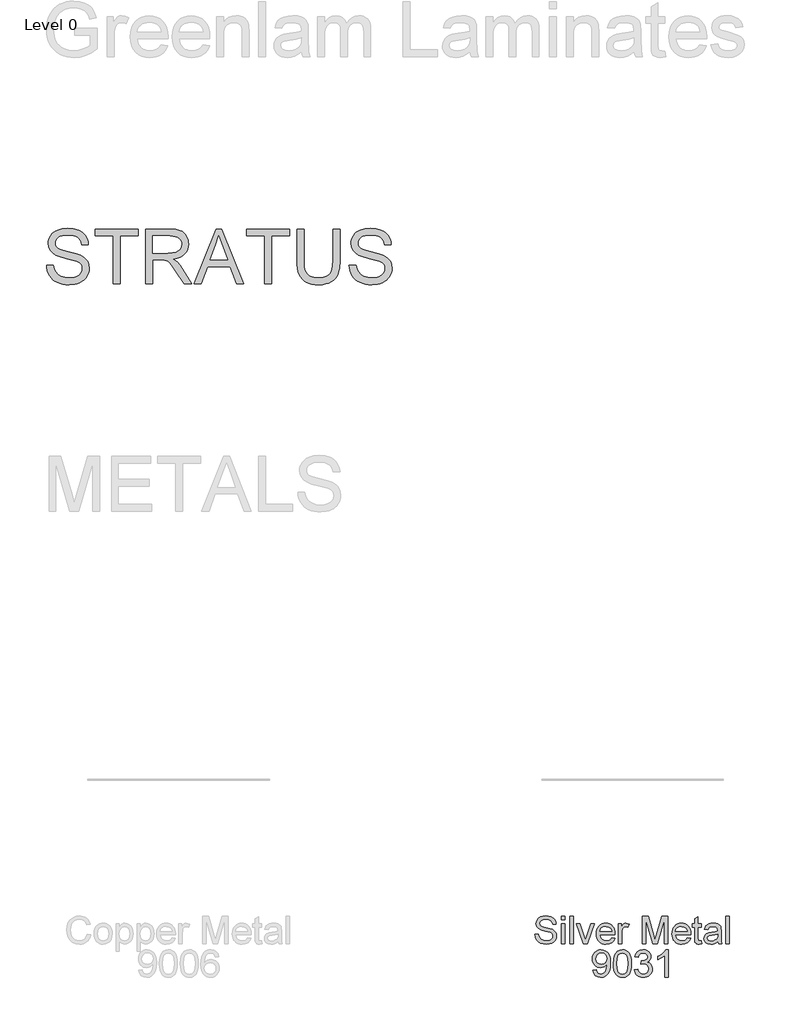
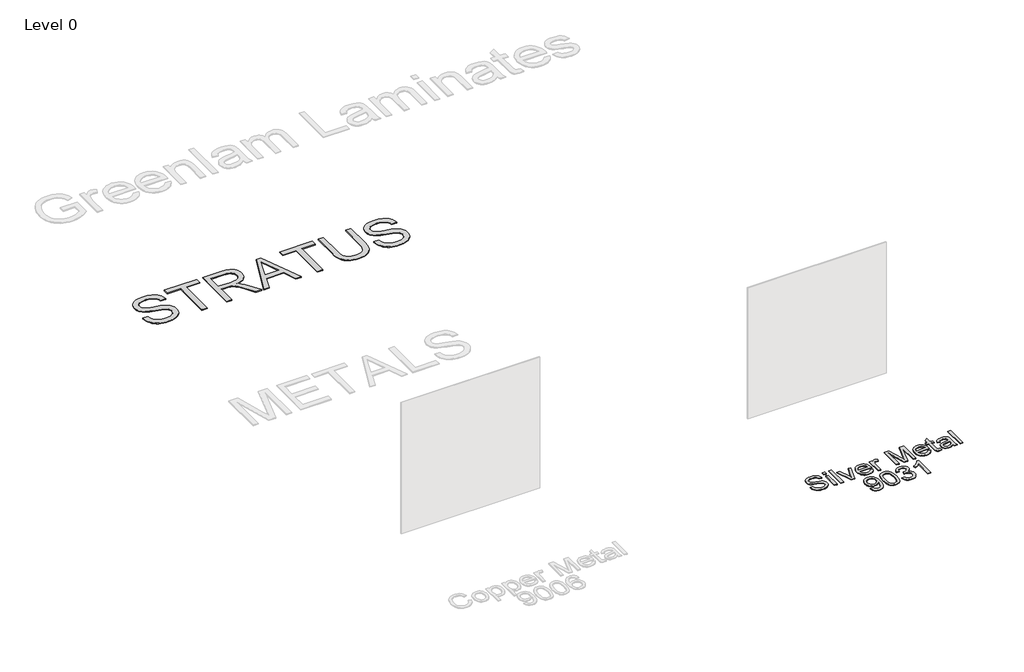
# One storey, part 2 of 3: 2 proxies.
"""IFC4 building model written with IfcOpenShell, lengths in millimetres."""

from ifc_helpers import new_model, si_unit, origin, origin_with_axes, place, context, project, spatial, polyline, outline, extrude, element, save

model = new_model("IFC4")

# Units and contexts
model_context = context("Model", 3, world=origin())
ifc_project = project(units=[si_unit("LENGTHUNIT", "METRE", prefix="MILLI")], contexts=[model_context])

# Site, building, storey
site = spatial("IfcSite", under=ifc_project)
building = spatial("IfcBuilding", under=site)
storey = spatial("IfcBuildingStorey", under=building, Name="Level 0", Elevation=0.0)

# Proxies
placement = place(None, origin())
element("IfcBuildingElementProxy", 1, Name="300mm Arial", ObjectType="300mm Arial", at=placement, inside=storey, context=model_context, shape_type="SweptSolid", body=[
    extrude(outline(polyline([(-5524.284871, -6899.2649241), (-5486.6137547, -6899.2649241), (-5482.2911413, -6920.1698185), (-5474.4736489, -6936.9728286), (-5462.2783607, -6950.308551), (-5444.8223601, -6960.8115819), (-5423.4852044, -6967.6265959), (-5399.6464511, -6969.8982672), (-5378.6587832, -6968.1784189), (-5360.2830776, -6963.0188739), (-5345.3930538, -6954.8518936), (-5334.8624317, -6944.1097394), (-5328.5992407, -6931.7764955), (-5326.5115104, -6918.8362463), (-5328.0750089, -6906.2270909), (-5332.7655043, -6895.3285868), (-5342.293648, -6886.0303694), (-5358.3700912, -6878.222074), (-5413.2212967, -6863.837888), (-5449.227747, -6854.3189414), (-5472.2663569, -6845.2598472), (-5491.0191416, -6832.5863125), (-5504.3088787, -6817.2272392), (-5512.2275386, -6799.5137211), (-5514.867092, -6779.7768521), (-5511.6021392, -6757.7131294), (-5501.8072811, -6737.1393289), (-5485.740035, -6719.7017223), (-5463.6579182, -6707.0465817), (-5437.1520205, -6699.3486509), (-5407.8134314, -6696.782674), (-5376.028427, -6699.4682126), (-5348.2165481, -6707.5248283), (-5325.3710762, -6720.7869742), (-5308.4852927, -6739.0891034), (-5297.7983207, -6761.2907818), (-5293.5492837, -6786.2515752), (-5331.2204, -6786.2515752), (-5338.1365815, -6763.7739853), (-5352.5575557, -6747.5503893), (-5375.0903279, -6737.7279401), (-5406.3419034, -6734.4537903), (-5438.3292429, -6737.6911519), (-5460.2734039, -6747.4032365), (-5472.9653327, -6761.695452), (-5477.1959756, -6778.6732061), (-5474.1977374, -6793.1493626), (-5465.2030226, -6804.7928278), (-5443.9394433, -6815.2038882), (-5403.693153, -6825.8356779), (-5362.1592758, -6835.9340387), (-5337.0329355, -6844.7448125), (-5315.557824, -6858.4116286), (-5300.5758298, -6875.2790181), (-5291.774253, -6895.1630399), (-5288.8403941, -6917.8797531), (-5292.2157114, -6941.102304), (-5302.3416633, -6962.9452975), (-5318.8043826, -6981.7440675), (-5341.190002, -6995.8339479), (-5368.109767, -7004.6355246), (-5398.1749231, -7007.5693835), (-5435.0826843, -7004.4055984), (-5465.46054, -6994.9142429), (-5489.6579782, -6979.0585289), (-5508.0244868, -6956.8016682), (-5519.8151048, -6929.6887651), (-5524.284871, -6899.2649241)])), origin_with_axes(), (0.0, 0.0, 1.0), 10.0),
    extrude(outline(polyline([(-5237.0426092, -6739.1626798), (-5237.0426092, -6701.4915635), (-5199.3714929, -6701.4915635), (-5199.3714929, -6739.1626798), (-5237.0426092, -6739.1626798)])), origin_with_axes(), (0.0, 0.0, 1.0), 10.0),
    extrude(outline(polyline([(-5237.0426092, -7002.860494), (-5237.0426092, -6781.5426857), (-5199.3714929, -6781.5426857), (-5199.3714929, -7002.860494), (-5237.0426092, -7002.860494)])), origin_with_axes(), (0.0, 0.0, 1.0), 10.0),
    extrude(outline(polyline([(-5142.8648184, -7002.860494), (-5142.8648184, -6701.4915635), (-5105.1937021, -6701.4915635), (-5105.1937021, -7002.860494), (-5142.8648184, -7002.860494)])), origin_with_axes(), (0.0, 0.0, 1.0), 10.0),
    extrude(outline(polyline([(-4994.3876452, -7002.860494), (-5072.2314754, -6781.5426857), (-5032.3530671, -6781.5426857), (-4985.1905953, -6914.1273567), (-4970.9903503, -6958.7146546), (-4957.0844109, -6916.6289543), (-4909.6276335, -6781.5426857), (-4869.7492252, -6781.5426857), (-4946.6365622, -7002.860494), (-4994.3876452, -7002.860494)])), origin_with_axes(), (0.0, 0.0, 1.0), 10.0),
    extrude(outline(polyline([(-4681.8351021, -6936.9360404), (-4644.8997498, -6941.64493), (-4658.2078809, -6969.4752029), (-4679.4438691, -6990.2789297), (-4708.1294677, -7003.2467701), (-4743.7864301, -7007.5693835), (-4767.1607323, -7005.7046817), (-4787.9874518, -7000.1105761), (-4806.2665884, -6990.7870668), (-4821.9981422, -6977.7341537), (-4834.6486843, -6961.3151204), (-4843.6847859, -6941.8932503), (-4849.1064468, -6919.4685435), (-4850.9136671, -6894.0409998), (-4849.0880527, -6867.7512327), (-4843.6112095, -6844.5792656), (-4834.4831375, -6824.5250983), (-4821.7038366, -6807.5887309), (-4806.0136695, -6794.133447), (-4788.1529987, -6784.5225298), (-4768.121824, -6778.7559796), (-4745.9201456, -6776.8337961), (-4724.4335379, -6778.751381), (-4705.0024707, -6784.5041357), (-4687.6269442, -6794.0920602), (-4672.3069584, -6807.5151545), (-4659.8012698, -6824.4147337), (-4650.8686351, -6844.4321128), (-4645.5090543, -6867.5672917), (-4643.7225274, -6893.8202706), (-4643.9432566, -6903.9738137), (-4813.2425508, -6903.9738137), (-4806.7218424, -6932.1719686), (-4791.5743012, -6952.902119), (-4769.7129137, -6965.6492302), (-4743.0506661, -6969.8982672), (-4723.0010973, -6967.9300985), (-4706.1153138, -6962.0255925), (-4692.3933153, -6951.8168672), (-4681.8351021, -6936.9360404)]), holes=[polyline([(-4813.2425508, -6866.3026974), (-4681.3936437, -6866.3026974), (-4686.4888093, -6846.4002814), (-4696.4768055, -6832.1632482), (-4718.4393606, -6818.9194964), (-4746.0672984, -6814.5049125), (-4771.4603532, -6818.0273826), (-4792.457218, -6828.5947929), (-4807.0529362, -6845.0667092), (-4813.2425508, -6866.3026974)])]), origin_with_axes(), (0.0, 0.0, 1.0), 10.0),
    extrude(outline(polyline([(-4606.0514111, -7002.860494), (-4606.0514111, -6781.5426857), (-4573.0891843, -6781.5426857), (-4573.0891843, -6814.2841833), (-4560.9122903, -6795.3014723), (-4549.6918894, -6784.1178596), (-4538.4347004, -6778.654812), (-4526.1474417, -6776.8337961), (-4507.38546, -6779.7400639), (-4488.3291726, -6788.4588672), (-4500.9107368, -6822.2304343), (-4514.1544887, -6816.4362929), (-4527.3982405, -6814.5049125), (-4538.6462325, -6816.3627165), (-4548.698608, -6821.9361288), (-4556.8196031, -6830.8020848), (-4562.2734536, -6842.5375205), (-4566.8535845, -6863.5803706), (-4568.3802948, -6886.5362071), (-4568.3802948, -7002.860494), (-4606.0514111, -7002.860494)])), origin_with_axes(), (0.0, 0.0, 1.0), 10.0),
    extrude(outline(polyline([(-4342.3535969, -7002.860494), (-4342.3535969, -6701.4915635), (-4277.5327894, -6701.4915635), (-4215.875767, -6913.9066275), (-4203.4413555, -6958.2731962), (-4189.9768745, -6910.2278076), (-4129.3499217, -6701.4915635), (-4064.5291142, -6701.4915635), (-4064.5291142, -7002.860494), (-4102.2002305, -7002.860494), (-4102.2002305, -6739.1626798), (-4177.9103451, -7002.860494), (-4228.972366, -7002.860494), (-4304.6824806, -6739.1626798), (-4304.6824806, -7002.860494), (-4342.3535969, -7002.860494)])), origin_with_axes(), (0.0, 0.0, 1.0), 10.0),
    extrude(outline(polyline([(-3848.3616538, -6936.9360404), (-3811.4263015, -6941.64493), (-3824.7344327, -6969.4752029), (-3845.9704208, -6990.2789297), (-3874.6560194, -7003.2467701), (-3910.3129818, -7007.5693835), (-3933.6872841, -7005.7046817), (-3954.5140035, -7000.1105761), (-3972.7931401, -6990.7870668), (-3988.524694, -6977.7341537), (-4001.1752361, -6961.3151204), (-4010.2113376, -6941.8932503), (-4015.6329985, -6919.4685435), (-4017.4402188, -6894.0409998), (-4015.6146044, -6867.7512327), (-4010.1377612, -6844.5792656), (-4001.0096892, -6824.5250983), (-3988.2303884, -6807.5887309), (-3972.5402213, -6794.133447), (-3954.6795504, -6784.5225298), (-3934.6483758, -6778.7559796), (-3912.4466974, -6776.8337961), (-3890.9600896, -6778.751381), (-3871.5290225, -6784.5041357), (-3854.153496, -6794.0920602), (-3838.8335101, -6807.5151545), (-3826.3278216, -6824.4147337), (-3817.3951869, -6844.4321128), (-3812.035606, -6867.5672917), (-3810.2490791, -6893.8202706), (-3810.4698083, -6903.9738137), (-3979.7691025, -6903.9738137), (-3973.2483941, -6932.1719686), (-3958.100853, -6952.902119), (-3936.2394654, -6965.6492302), (-3909.5772178, -6969.8982672), (-3889.5276491, -6967.9300985), (-3872.6418655, -6962.0255925), (-3858.9198671, -6951.8168672), (-3848.3616538, -6936.9360404)]), holes=[polyline([(-3979.7691025, -6866.3026974), (-3847.9201954, -6866.3026974), (-3853.015361, -6846.4002814), (-3863.0033572, -6832.1632482), (-3884.9659123, -6818.9194964), (-3912.5938502, -6814.5049125), (-3937.9869049, -6818.0273826), (-3958.9837698, -6828.5947929), (-3973.5794879, -6845.0667092), (-3979.7691025, -6866.3026974)])]), origin_with_axes(), (0.0, 0.0, 1.0), 10.0),
    extrude(outline(polyline([(-3692.5268406, -6971.4433716), (-3687.8179511, -7003.96414), (-3715.9977119, -7007.5693835), (-3734.079112, -7006.005885), (-3747.5619871, -7001.3153896), (-3757.0901308, -6994.0865084), (-3763.3073365, -6984.9078526), (-3766.7286391, -6969.1441091), (-3767.8690733, -6942.1599648), (-3767.8690733, -6819.213802), (-3796.1224105, -6819.213802), (-3796.1224105, -6781.5426857), (-3767.8690733, -6781.5426857), (-3767.8690733, -6727.758338), (-3730.197957, -6705.6118419), (-3730.197957, -6781.5426857), (-3692.5268406, -6781.5426857), (-3692.5268406, -6819.213802), (-3730.197957, -6819.213802), (-3730.197957, -6941.0563188), (-3728.2113942, -6960.4804881), (-3721.7734593, -6967.3598814), (-3708.9343776, -6969.8982672), (-3692.5268406, -6971.4433716)])), origin_with_axes(), (0.0, 0.0, 1.0), 10.0),
    extrude(outline(polyline([(-3513.5890382, -6974.6071568), (-3531.5876648, -6990.0398064), (-3550.1197203, -7000.1381672), (-3569.608269, -7005.7115794), (-3590.4763752, -7007.5693835), (-3621.9578769, -7003.0996173), (-3645.1804279, -6989.6903186), (-3659.5002345, -6969.3280501), (-3664.2735034, -6943.9993748), (-3662.4708816, -6928.3827841), (-3657.0630163, -6914.2009331), (-3648.7212921, -6902.0608273), (-3638.1170936, -6892.5694718), (-3611.7399545, -6880.2086368), (-3579.1456097, -6874.5432541), (-3540.6283648, -6868.5835657), (-3513.8097674, -6861.5938078), (-3513.5890382, -6853.2060983), (-3516.1826063, -6836.3938912), (-3523.9633105, -6825.3942195), (-3541.3641288, -6817.2272392), (-3565.6075523, -6814.5049125), (-3588.048354, -6816.3167313), (-3603.720127, -6821.7521878), (-3614.407099, -6831.8045633), (-3621.8934976, -6847.4671392), (-3659.5646139, -6842.7582497), (-3653.0255114, -6822.156858), (-3643.2674415, -6805.9700502), (-3629.3798962, -6793.590821), (-3610.4523675, -6784.4121652), (-3587.303393, -6778.7283884), (-3560.75151, -6776.8337961), (-3535.2848789, -6778.5076592), (-3515.0973544, -6783.5292485), (-3499.8762368, -6791.0800264), (-3489.3088265, -6800.3414556), (-3482.3006745, -6811.7917827), (-3477.7573319, -6825.9092543), (-3475.9179219, -6858.8714811), (-3475.9179219, -6905.7396473), (-3474.0049355, -6971.1858542), (-3466.5001428, -7002.860494), (-3504.1712591, -7002.860494), (-3513.5890382, -6974.6071568)]), holes=[polyline([(-3513.5890382, -6899.2649241), (-3574.3631438, -6910.8164188), (-3606.7735476, -6916.9232599), (-3621.4520392, -6926.8560738), (-3626.6023871, -6941.3506244), (-3623.7972869, -6952.5526311), (-3615.3819863, -6961.7312869), (-3601.5404262, -6967.8565221), (-3582.4565477, -6969.8982672), (-3562.223038, -6967.64499), (-3544.343973, -6960.8851583), (-3529.8494224, -6950.9247533), (-3519.7694557, -6939.069756), (-3515.2996895, -6926.8560738), (-3513.8097674, -6909.933502), (-3513.5890382, -6899.2649241)])]), origin_with_axes(), (0.0, 0.0, 1.0), 10.0),
    extrude(outline(polyline([(-3424.120137, -7002.860494), (-3424.120137, -6701.4915635), (-3386.4490207, -6701.4915635), (-3386.4490207, -7002.860494), (-3424.120137, -7002.860494)])), origin_with_axes(), (0.0, 0.0, 1.0), 10.0),
    extrude(outline(polyline([(-4888.5847834, -7293.4427149), (-4850.9136671, -7288.7338254), (-4844.4757321, -7310.1169663), (-4833.9910953, -7324.6758963), (-4819.7172739, -7333.0360146), (-4801.9117853, -7335.8227207), (-4785.9365097, -7334.029296), (-4771.4143679, -7328.6490218), (-4759.3478385, -7320.2705094), (-4750.7393998, -7309.4823699), (-4738.4153529, -7276.7408723), (-4732.9706994, -7233.0364913), (-4733.1914286, -7225.6788514), (-4746.2420424, -7241.6081418), (-4763.320964, -7254.2264942), (-4783.1957888, -7262.4486568), (-4804.6341121, -7265.1893777), (-4822.5292719, -7263.5155146), (-4838.9850934, -7258.4939254), (-4854.0015766, -7250.12461), (-4867.5787214, -7238.4075684), (-4878.8290127, -7223.9544045), (-4886.864935, -7207.3767221), (-4891.6864884, -7188.6745212), (-4893.2936729, -7167.8478018), (-4891.6083135, -7146.326705), (-4886.5522353, -7127.0129003), (-4878.1254384, -7109.9063875), (-4866.3279227, -7095.0071667), (-4851.9920212, -7082.9360387), (-4835.9500669, -7074.3138045), (-4818.2020599, -7069.1404639), (-4798.7480001, -7067.4160171), (-4770.6510128, -7071.3523544), (-4745.074017, -7083.1613665), (-4723.681679, -7102.254442), (-4708.1386647, -7128.0429699), (-4698.6749004, -7163.6907352), (-4695.5203123, -7212.3615232), (-4698.6657034, -7263.96617), (-4708.1018765, -7303.8537754), (-4723.7460584, -7333.8269609), (-4745.5154754, -7355.6883485), (-4772.4720286, -7369.0424649), (-4803.6776189, -7373.4938371), (-4835.8856876, -7368.2423216), (-4861.5822449, -7352.4877751), (-4879.5532804, -7327.2234791), (-4888.5847834, -7293.4427149)]), holes=[polyline([(-4733.1914286, -7166.964885), (-4737.2565246, -7141.4338745), (-4749.4518128, -7121.788976), (-4768.3793414, -7109.262594), (-4792.641159, -7105.0871334), (-4817.8042875, -7109.5844908), (-4837.9642208, -7123.0765629), (-4851.2079727, -7143.7239399), (-4855.6225566, -7169.6872117), (-4851.447096, -7192.964945), (-4838.920714, -7211.4418182), (-4819.2574214, -7223.4991506), (-4793.6712286, -7227.5182614), (-4769.6025491, -7223.4991506), (-4750.224365, -7211.4418182), (-4737.4496627, -7192.2843633), (-4733.1914286, -7166.964885)])]), origin_with_axes(), (0.0, 0.0, 1.0), 10.0),
    extrude(outline(polyline([(-4662.5580855, -7220.5285035), (-4659.7897735, -7172.2899768), (-4651.4848375, -7133.8187172), (-4637.7260509, -7104.5261133), (-4618.5961871, -7083.8235541), (-4593.9572905, -7071.5179013), (-4563.6714052, -7067.4160171), (-4540.4580513, -7069.8440382), (-4519.6727186, -7077.1281017), (-4502.2902943, -7088.983099), (-4489.2856658, -7105.1239216), (-4479.4632165, -7125.4126136), (-4471.62733, -7149.7112194), (-4466.4953762, -7180.5673217), (-4464.7847249, -7220.5285035), (-4467.5254458, -7268.4911186), (-4475.7476084, -7306.8704077), (-4489.4236215, -7336.1906027), (-4508.5258941, -7356.9759355), (-4533.2199731, -7369.3643617), (-4563.6714052, -7373.4938371), (-4584.4199498, -7371.7004123), (-4602.8140495, -7366.3201381), (-4618.8537045, -7357.3530145), (-4632.5389147, -7344.7990414), (-4645.672302, -7322.1053209), (-4655.0532928, -7293.828991), (-4660.6818874, -7259.9700519), (-4662.5580855, -7220.5285035)]), holes=[polyline([(-4624.8869692, -7220.4549271), (-4620.4723853, -7279.7115194), (-4614.9541554, -7299.9795181), (-4607.2286335, -7314.0073184), (-4587.5101585, -7330.3688702), (-4563.6714052, -7335.8227207), (-4539.8326519, -7330.3504761), (-4520.114177, -7313.933742), (-4512.3886551, -7299.8829491), (-4506.8704252, -7279.6195489), (-4502.4558412, -7220.4549271), (-4506.7232724, -7162.5319069), (-4512.0575613, -7142.3305869), (-4519.5255658, -7127.9693935), (-4539.2072525, -7110.8076984), (-4564.1128636, -7105.0871334), (-4587.6940995, -7110.1271167), (-4606.6400223, -7125.2470667), (-4614.6230616, -7140.8820515), (-4620.3252325, -7161.9616898), (-4624.8869692, -7220.4549271)])]), origin_with_axes(), (0.0, 0.0, 1.0), 10.0),
    extrude(outline(polyline([(-4431.8224982, -7288.7338254), (-4394.1513818, -7284.0249358), (-4385.7176871, -7307.6981422), (-4373.3660491, -7323.6826149), (-4356.4894626, -7332.7876943), (-4334.4809222, -7335.8227207), (-4308.6556062, -7331.6472601), (-4288.716402, -7319.1208782), (-4275.9692909, -7300.4324728), (-4271.7202539, -7277.7709419), (-4275.9325027, -7256.2590422), (-4288.5692492, -7238.8122386), (-4307.699113, -7227.2515469), (-4331.3907135, -7223.397983), (-4357.8046407, -7227.5182614), (-4353.610786, -7189.8471451), (-4347.5775213, -7190.2886035), (-4325.0079609, -7187.5846708), (-4304.8296334, -7179.4728728), (-4290.5926002, -7165.7508744), (-4285.8469225, -7146.2163404), (-4289.2866191, -7129.9467592), (-4299.6057091, -7116.7489926), (-4315.3510585, -7108.0025982), (-4335.0695334, -7105.0871334), (-4354.8247966, -7108.0301893), (-4370.9748162, -7116.8593572), (-4382.7654341, -7131.574637), (-4389.4424923, -7152.1760288), (-4427.1136086, -7147.4671392), (-4416.0219665, -7113.6403898), (-4396.2850974, -7088.3852908), (-4369.282559, -7072.6583355), (-4336.3939086, -7067.4160171), (-4312.7115052, -7070.0003881), (-4290.9604822, -7077.7535011), (-4272.6215647, -7089.9855775), (-4259.1754778, -7106.0068384), (-4250.9257241, -7124.4653175), (-4248.1758062, -7144.0090485), (-4250.7877683, -7162.2192072), (-4258.6236548, -7178.7371088), (-4271.5731011, -7192.8085951), (-4289.5257424, -7203.6795081), (-4265.9445065, -7213.2076518), (-4248.4701118, -7229.4312477), (-4237.6543811, -7251.4673793), (-4234.0491375, -7278.4331295), (-4235.8517593, -7297.5445992), (-4241.2596247, -7315.1477526), (-4250.2727335, -7331.2425899), (-4262.891086, -7345.829111), (-4278.2639548, -7357.9324287), (-4295.540613, -7366.5776555), (-4314.7210606, -7371.7647917), (-4335.8052974, -7373.4938371), (-4354.8615848, -7372.0177105), (-4372.2256149, -7367.589331), (-4387.8973879, -7360.2086985), (-4401.8769037, -7349.875813), (-4413.5985438, -7337.1976797), (-4422.4966896, -7322.781304), (-4428.571341, -7306.6266859), (-4431.8224982, -7288.7338254)])), origin_with_axes(), (0.0, 0.0, 1.0), 10.0),
    extrude(outline(polyline([(-4059.8202246, -7368.7849475), (-4097.4913409, -7368.7849475), (-4097.4913409, -7133.9290818), (-4133.1758945, -7159.3497277), (-4172.8335735, -7178.3692268), (-4172.8335735, -7142.7582497), (-4143.2466641, -7126.6634124), (-4117.6144861, -7107.5151545), (-4097.4085675, -7087.1528861), (-4084.1004363, -7067.4160171), (-4059.8202246, -7067.4160171), (-4059.8202246, -7368.7849475)])), origin_with_axes(), (0.0, 0.0, 1.0), 10.0),
])
element("IfcBuildingElementProxy", 2, Name="600mm Arial", ObjectType="600mm Arial", at=placement, inside=storey, context=model_context, shape_type="SweptSolid", body=[
    extrude(outline(polyline([(-10905.7165225, 467.3190924), (-10830.3742899, 467.3190924), (-10821.729063, 425.5093036), (-10806.0940782, 391.9032833), (-10781.7035019, 365.2318387), (-10746.7915006, 344.2257768), (-10704.1171891, 330.5957488), (-10656.4396825, 326.0524062), (-10614.4643469, 329.4921029), (-10577.7129356, 339.8111928), (-10547.9328881, 356.1451534), (-10526.8716438, 377.6294619), (-10514.3452619, 402.2959497), (-10510.1698013, 428.1764481), (-10513.2967982, 453.3947588), (-10522.6777891, 475.1917671), (-10541.7340764, 493.7882019), (-10573.8869628, 509.4047926), (-10683.5893738, 538.1731646), (-10755.6022743, 557.2110579), (-10801.6794942, 575.3292461), (-10839.1850636, 600.6763156), (-10865.7645378, 631.3944622), (-10881.6018577, 666.8214983), (-10886.8809643, 706.2952364), (-10885.248488, 728.7314396), (-10880.3510589, 750.4226817), (-10872.1886771, 771.3689628), (-10860.7613427, 791.5702829), (-10846.1978142, 810.203506), (-10828.6268504, 826.445496), (-10808.0484513, 840.2962532), (-10784.4626169, 851.7557773), (-10731.4508214, 867.1516388), (-10672.7736431, 872.2835926), (-10609.2036344, 866.9125155), (-10553.5798767, 850.7992841), (-10529.2444827, 838.797134), (-10507.8889329, 824.2749923), (-10489.5132272, 807.2328588), (-10474.1173657, 787.6707338), (-10461.82091, 766.1588341), (-10452.7434218, 743.2673769), (-10446.884901, 718.9963623), (-10444.2453477, 693.3457902), (-10519.5875803, 693.3457902), (-10524.6275637, 717.3868786), (-10533.4199434, 738.30097), (-10545.9647194, 756.0880645), (-10562.2618918, 770.748162), (-10582.6149632, 782.2076861), (-10607.3274362, 790.3930605), (-10636.3993109, 795.3042852), (-10669.8305872, 796.94136), (-10704.3287213, 795.3226793), (-10733.8052661, 790.4666369), (-10758.2602218, 782.373233), (-10777.6935881, 771.0424676), (-10792.5008385, 757.4216367), (-10803.0774458, 742.4580365), (-10809.4234102, 726.1516671), (-10811.5387317, 708.5025284), (-10810.0396126, 693.318199), (-10805.5422552, 679.5502154), (-10798.0466595, 667.1985774), (-10787.5528256, 656.2632851), (-10771.034924, 645.9074069), (-10745.025667, 635.4411642), (-10664.5330864, 614.1775848), (-10581.4653319, 593.9808633), (-10531.2126514, 576.3593157), (-10488.2624284, 549.0256835), (-10471.6571549, 532.9584373), (-10458.2984399, 515.2909045), (-10448.0299337, 496.1150555), (-10440.6952865, 475.5228608), (-10434.8275686, 430.0894344), (-10436.5152273, 406.5219941), (-10441.5782033, 383.6443326), (-10450.0164965, 361.4564497), (-10461.8301071, 339.9583456), (-10476.8121013, 319.9823533), (-10494.7555457, 302.3608057), (-10515.66044, 287.0937029), (-10539.5267845, 274.1810449), (-10565.6602017, 263.9125387), (-10593.3663145, 256.5778914), (-10653.4966266, 250.7101736), (-10692.0368641, 252.2920662), (-10727.3121489, 257.0377439), (-10759.322481, 264.9472068), (-10788.0678604, 276.0204549), (-10813.7230311, 290.2758822), (-10836.4627369, 307.7318828), (-10856.2869779, 328.3884569), (-10873.1957541, 352.2456043), (-10886.816585, 378.5307728), (-10896.77699, 406.4714104), (-10903.0769692, 436.0675169), (-10905.7165225, 467.3190924)])), origin_with_axes(), (0.0, 0.0, 1.0), 10.0),
    extrude(outline(polyline([(-10171.1297545, 260.1279527), (-10171.1297545, 787.523581), (-10368.9031151, 787.523581), (-10368.9031151, 862.8658136), (-9898.0141613, 862.8658136), (-9898.0141613, 787.523581), (-10095.7875219, 787.523581), (-10095.7875219, 260.1279527), (-10171.1297545, 260.1279527)])), origin_with_axes(), (0.0, 0.0, 1.0), 10.0),
    extrude(outline(polyline([(-9813.2541496, 260.1279527), (-9813.2541496, 862.8658136), (-9553.529461, 862.8658136), (-9483.7238524, 858.8007175), (-9432.937743, 846.6054294), (-9413.3388297, 836.9117388), (-9395.8184497, 824.0910513), (-9380.3766029, 808.1433668), (-9367.0132894, 789.0686853), (-9356.2297485, 767.892478), (-9348.5272192, 745.6402158), (-9343.9057016, 722.3118988), (-9342.3651958, 697.9075269), (-9344.9173771, 666.950257), (-9352.5739211, 638.5313729), (-9365.3348278, 612.6508745), (-9383.2000972, 589.308762), (-9406.3996556, 569.2499962), (-9435.1634291, 553.2195382), (-9469.4914177, 541.2173881), (-9509.3836216, 533.2435459), (-9484.5515869, 517.0199499), (-9466.5621573, 501.0170831), (-9435.6968579, 464.4128246), (-9405.4937461, 423.4675585), (-9304.9883851, 260.1279527), (-9392.5442999, 260.1279527), (-9470.9767413, 385.0606782), (-9527.6305685, 467.7605507), (-9548.6918128, 491.8752155), (-9567.4354004, 506.8296186), (-9603.2671067, 521.1770164), (-9646.9714878, 523.8257668), (-9737.911917, 523.8257668), (-9737.911917, 260.1279527), (-9813.2541496, 260.1279527)]), holes=[polyline([(-9737.911917, 599.1679994), (-9569.2748104, 599.1679994), (-9520.8431457, 601.8351439), (-9483.2639999, 609.8365773), (-9454.9738745, 623.7057285), (-9434.409271, 643.9760264), (-9421.882889, 668.4953614), (-9417.7074284, 695.1116238), (-9419.6985897, 714.3794433), (-9425.6720736, 731.8630351), (-9435.6278801, 747.5623992), (-9449.5660092, 761.4775357), (-9467.8083576, 772.8726805), (-9490.6768221, 781.0120696), (-9518.1714027, 785.8957031), (-9550.2920994, 787.523581), (-9737.911917, 787.523581), (-9737.911917, 599.1679994)])]), origin_with_axes(), (0.0, 0.0, 1.0), 10.0),
    extrude(outline(polyline([(-9280.7081734, 260.1279527), (-9040.1133485, 862.8658136), (-8975.9547286, 862.8658136), (-8735.3599037, 260.1279527), (-8814.9695675, 260.1279527), (-8883.9842298, 448.4835342), (-9132.2310001, 448.4835342), (-9201.0985096, 260.1279527), (-9280.7081734, 260.1279527)]), holes=[polyline([(-9104.5662741, 523.8257668), (-8911.501803, 523.8257668), (-8965.8011855, 672.0086345), (-9008.0340386, 787.523581), (-9045.5580021, 684.9580807), (-9104.5662741, 523.8257668)])]), origin_with_axes(), (0.0, 0.0, 1.0), 10.0),
    extrude(outline(polyline([(-8504.182858, 260.1279527), (-8504.182858, 787.523581), (-8701.9562186, 787.523581), (-8701.9562186, 862.8658136), (-8231.0672647, 862.8658136), (-8231.0672647, 787.523581), (-8428.8406253, 787.523581), (-8428.8406253, 260.1279527), (-8504.182858, 260.1279527)])), origin_with_axes(), (0.0, 0.0, 1.0), 10.0),
    extrude(outline(polyline([(-7750.7605318, 862.8658136), (-7675.4182992, 862.8658136), (-7675.4182992, 515.1437517), (-7680.531859, 433.7130721), (-7686.9238086, 400.0196799), (-7695.8725382, 371.007586), (-7708.1505997, 345.5777431), (-7724.5305456, 322.6311037), (-7745.0123757, 302.1676677), (-7769.59609, 284.1874352), (-7798.3092797, 269.5411332), (-7831.179536, 259.079489), (-7868.2068588, 252.8025024), (-7909.3912482, 250.7101736), (-7949.5593635, 252.5311895), (-7985.8923091, 257.9942371), (-8018.3900848, 267.0993165), (-8047.0526907, 279.8464276), (-8071.8847254, 296.047031), (-8092.8907873, 315.512587), (-8110.0708765, 338.2430958), (-8123.4249929, 364.2385573), (-8133.4359817, 394.3910853), (-8140.586688, 429.5927937), (-8144.8771118, 469.8436825), (-8146.307253, 515.1437517), (-8146.307253, 862.8658136), (-8070.9650204, 862.8658136), (-8070.9650204, 517.7925021), (-8067.2494123, 450.0838209), (-8056.1025878, 402.9397432), (-8047.3377993, 385.5619175), (-8035.9058663, 370.2902161), (-8021.8067888, 357.1246392), (-8005.0405669, 346.0651867), (-7964.7942766, 331.0556013), (-7916.4545825, 326.0524062), (-7874.9299023, 328.5264126), (-7839.8247629, 335.9484319), (-7811.1391643, 348.318464), (-7788.8731065, 365.6365089), (-7772.1988551, 389.990297), (-7760.2886755, 423.4675585), (-7753.1425678, 466.0682936), (-7750.7605318, 517.7925021), (-7750.7605318, 862.8658136)])), origin_with_axes(), (0.0, 0.0, 1.0), 10.0),
    extrude(outline(polyline([(-7571.8227294, 467.3190924), (-7496.4804968, 467.3190924), (-7487.8352699, 425.5093036), (-7472.2002851, 391.9032833), (-7447.8097088, 365.2318387), (-7412.8977075, 344.2257768), (-7370.223396, 330.5957488), (-7322.5458894, 326.0524062), (-7280.5705538, 329.4921029), (-7243.8191425, 339.8111928), (-7214.039095, 356.1451534), (-7192.9778507, 377.6294619), (-7180.4514688, 402.2959497), (-7176.2760082, 428.1764481), (-7179.4030051, 453.3947588), (-7188.783996, 475.1917671), (-7207.8402834, 493.7882019), (-7239.9931697, 509.4047926), (-7349.6955807, 538.1731646), (-7421.7084812, 557.2110579), (-7467.7857011, 575.3292461), (-7505.2912706, 600.6763156), (-7531.8707447, 631.3944622), (-7547.7080646, 666.8214983), (-7552.9871712, 706.2952364), (-7551.3546949, 728.7314396), (-7546.4572658, 750.4226817), (-7538.294884, 771.3689628), (-7526.8675496, 791.5702829), (-7512.3040211, 810.203506), (-7494.7330573, 826.445496), (-7474.1546582, 840.2962532), (-7450.5688238, 851.7557773), (-7397.5570283, 867.1516388), (-7338.87985, 872.2835926), (-7275.3098413, 866.9125155), (-7219.6860836, 850.7992841), (-7195.3506896, 838.797134), (-7173.9951398, 824.2749923), (-7155.6194341, 807.2328588), (-7140.2235726, 787.6707338), (-7127.927117, 766.1588341), (-7118.8496287, 743.2673769), (-7112.9911079, 718.9963623), (-7110.3515546, 693.3457902), (-7185.6937872, 693.3457902), (-7190.7337706, 717.3868786), (-7199.5261503, 738.30097), (-7212.0709263, 756.0880645), (-7228.3680987, 770.748162), (-7248.7211701, 782.2076861), (-7273.4336431, 790.3930605), (-7302.5055178, 795.3042852), (-7335.9367941, 796.94136), (-7370.4349282, 795.3226793), (-7399.911473, 790.4666369), (-7424.3664287, 782.373233), (-7443.7997951, 771.0424676), (-7458.6070454, 757.4216367), (-7469.1836527, 742.4580365), (-7475.5296171, 726.1516671), (-7477.6449386, 708.5025284), (-7476.1458195, 693.318199), (-7471.6484621, 679.5502154), (-7464.1528664, 667.1985774), (-7453.6590325, 656.2632851), (-7437.1411309, 645.9074069), (-7411.1318739, 635.4411642), (-7330.6392933, 614.1775848), (-7247.5715388, 593.9808633), (-7197.3188583, 576.3593157), (-7154.3686354, 549.0256835), (-7137.7633618, 532.9584373), (-7124.4046468, 515.2909045), (-7114.1361407, 496.1150555), (-7106.8014934, 475.5228608), (-7100.9337756, 430.0894344), (-7102.6214342, 406.5219941), (-7107.6844102, 383.6443326), (-7116.1227034, 361.4564497), (-7127.936314, 339.9583456), (-7142.9183083, 319.9823533), (-7160.8617526, 302.3608057), (-7181.7666469, 287.0937029), (-7205.6329914, 274.1810449), (-7231.7664086, 263.9125387), (-7259.4725214, 256.5778914), (-7319.6028335, 250.7101736), (-7358.143071, 252.2920662), (-7393.4183558, 257.0377439), (-7425.4286879, 264.9472068), (-7454.1740673, 276.0204549), (-7479.829238, 290.2758822), (-7502.5689438, 307.7318828), (-7522.3931848, 328.3884569), (-7539.301961, 352.2456043), (-7552.9227919, 378.5307728), (-7562.8831969, 406.4714104), (-7569.1831761, 436.0675169), (-7571.8227294, 467.3190924)])), origin_with_axes(), (0.0, 0.0, 1.0), 10.0),
])

save(model, "model.ifc")
